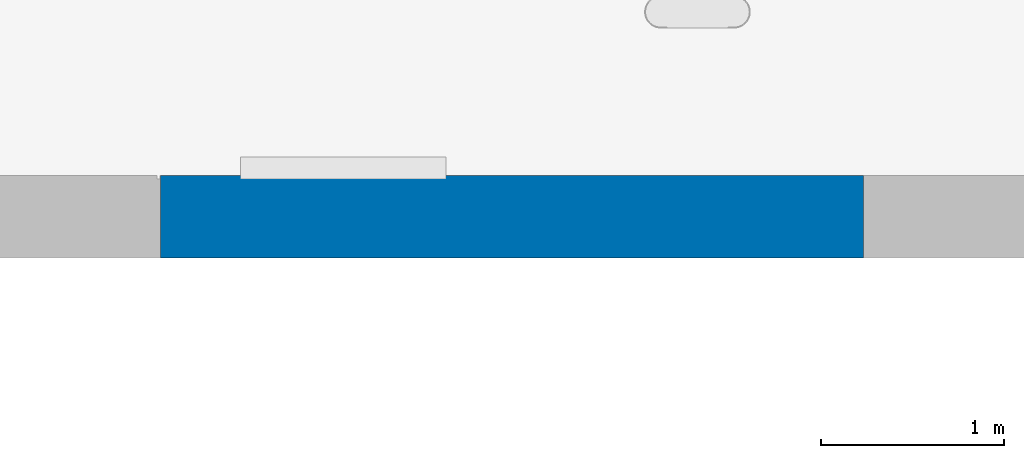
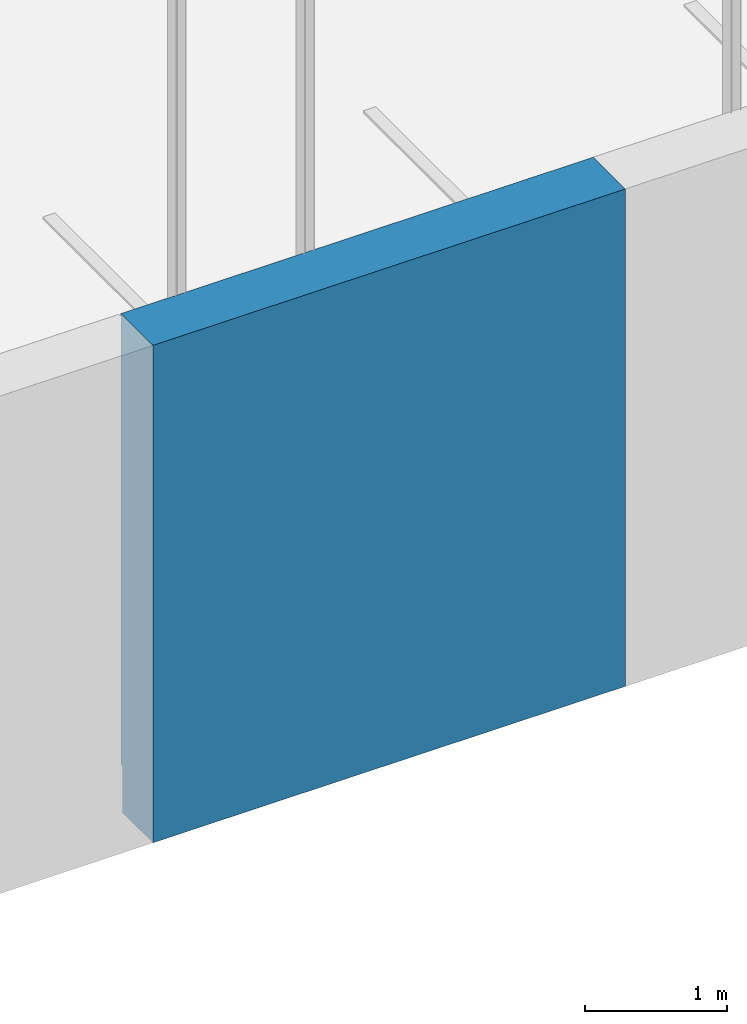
# One storey, part 29 of 77: 1 wall, 3 openings.
"""IFC2X3 building model written with IfcOpenShell, lengths in millimetres."""

from ifc_helpers import new_model, entity, si_unit, converted_unit, derived_unit, direction, frame, frame_2d, origin, place, context, subcontext, project, spatial, rectangle, extrude, faceted_brep, material, layer, layer_set, layer_usage, type_object, element, save


model = new_model("IFC2X3")

# Units and contexts
model_context = context("Model", 3, precision=0.01, world=origin(), true_north=direction((6.12303176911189e-17, 1.0)))
body_context = subcontext(model_context, "Body", "Model", "MODEL_VIEW")
ifc_project = project(units=[si_unit("LENGTHUNIT", "METRE", prefix="MILLI"), si_unit("AREAUNIT", "SQUARE_METRE"), si_unit("VOLUMEUNIT", "CUBIC_METRE"), converted_unit("PLANEANGLEUNIT", "DEGREE", entity("IfcRatioMeasure", 0.0174532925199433), si_unit("PLANEANGLEUNIT", "RADIAN"), dimensions=[0, 0, 0, 0, 0, 0, 0]), si_unit("MASSUNIT", "GRAM", prefix="KILO"), derived_unit("MASSDENSITYUNIT", [(si_unit("MASSUNIT", "GRAM", prefix="KILO"), 1), (si_unit("LENGTHUNIT", "METRE"), -3)]), si_unit("TIMEUNIT", "SECOND"), si_unit("FREQUENCYUNIT", "HERTZ"), si_unit("THERMODYNAMICTEMPERATUREUNIT", "DEGREE_CELSIUS"), derived_unit("THERMALTRANSMITTANCEUNIT", [(si_unit("MASSUNIT", "GRAM", prefix="KILO"), 1), (si_unit("THERMODYNAMICTEMPERATUREUNIT", "KELVIN"), -1), (si_unit("TIMEUNIT", "SECOND"), -3)]), derived_unit("VOLUMETRICFLOWRATEUNIT", [(si_unit("LENGTHUNIT", "METRE"), 3), (si_unit("TIMEUNIT", "SECOND"), -1)]), si_unit("ELECTRICCURRENTUNIT", "AMPERE"), si_unit("ELECTRICVOLTAGEUNIT", "VOLT"), si_unit("POWERUNIT", "WATT"), si_unit("FORCEUNIT", "NEWTON", prefix="KILO"), si_unit("ILLUMINANCEUNIT", "LUX"), si_unit("LUMINOUSFLUXUNIT", "LUMEN"), si_unit("LUMINOUSINTENSITYUNIT", "CANDELA"), derived_unit("USERDEFINED", [(si_unit("MASSUNIT", "GRAM", prefix="KILO"), -1), (si_unit("LENGTHUNIT", "METRE"), -2), (si_unit("TIMEUNIT", "SECOND"), 3), (si_unit("LUMINOUSFLUXUNIT", "LUMEN"), 1)]), derived_unit("LINEARVELOCITYUNIT", [(si_unit("LENGTHUNIT", "METRE"), 1), (si_unit("TIMEUNIT", "SECOND"), -1)]), si_unit("PRESSUREUNIT", "PASCAL"), derived_unit("USERDEFINED", [(si_unit("LENGTHUNIT", "METRE"), -2), (si_unit("MASSUNIT", "GRAM", prefix="KILO"), 1), (si_unit("TIMEUNIT", "SECOND"), -2)])], contexts=[model_context])

# Site, building, storey
site_placement = place(None, origin())
site = spatial("IfcSite", under=ifc_project, at=site_placement, Name="Default", CompositionType="ELEMENT")
building_placement = place(site_placement, origin())
building = spatial("IfcBuilding", under=site, at=building_placement, CompositionType="ELEMENT")
storey_placement = place(building_placement, origin())
storey = spatial("IfcBuildingStorey", under=building, at=storey_placement, Name="1. KORRUS", CompositionType="ELEMENT", Elevation=0.0)

# Wall, openings
ifc_material_1 = material(Name="RECKLI 1 173 THUR by Polantis 2016-toon2")
ifc_layer_1 = layer(ifc_material_1, 100.0)
ifc_material_2 = material(Name="Soojusisolatsioon EPS")
ifc_layer_2 = layer(ifc_material_2, 200.0)
ifc_material_3 = material(Name="r/b")
ifc_layer_3 = layer(ifc_material_3, 150.0)
ifc_layer_set = layer_set([ifc_layer_1, ifc_layer_2, ifc_layer_3], Name="Basic Wall:VS-1_toon-c")
ifc_layer_usage = layer_usage(ifc_layer_set, "AXIS2", "NEGATIVE", 225.0)
wall_type = type_object("IfcWallType", Name="Basic Wall:VS-1_toon-c", PredefinedType="STANDARD", material=ifc_layer_set)
wall_placement = place(storey_placement, frame((18253.3528910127, 21725.0517807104, -400.0)))
wall = element("IfcWallStandardCase", 1, at=wall_placement, inside=storey, type_object=wall_type, material=ifc_layer_usage, Name="Basic Wall:VS-1_toon-c", ObjectType="Basic Wall:VS-1_toon-c", context=body_context, shape_type="SweptSolid", body=[
    extrude(rectangle(XDim=3831.64710898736, YDim=450.000000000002, at=frame_2d((1915.82355449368, -3.41060513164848e-13), x_axis=(-1.0, 0.0))), origin(), (0.0, 0.0, 1.0), 4265.0),
])
opening_1_placement = place(wall_placement, origin())
element("IfcOpeningElement", 2, at=opening_1_placement, cuts=wall, Name="Basic Wall:VS-1_toon-c", ObjectType="Opening", context=body_context, shape_type="Brep", body=[
    faceted_brep([(-18683.3528910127, 6304.94821928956, 400.0), (-18683.3528910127, 6304.94821928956, 0.0), (-18703.3528910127, 6324.94821928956, 0.0), (-18703.3528910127, 6324.94821928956, 400.0), (-18683.3528910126, 1564.94821928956, 400.0), (-18703.3528910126, 1564.94821928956, 400.0), (-18703.3528910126, 1564.94821928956, 0.0), (-18683.3528910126, 1564.94821928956, 0.0)], [[[0, 1, 2, 3]], [[4, 5, 6, 7]], [[1, 0, 4, 7]], [[2, 1, 7, 6]], [[3, 2, 6, 5]], [[0, 3, 5, 4]]]),
    faceted_brep([(-18683.3528910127, 6304.94821928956, 400.0), (-18703.3528910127, 6324.94821928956, 400.0), (-18703.3528910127, 6324.94821928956, 0.0), (-18683.3528910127, 6304.94821928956, 0.0), (-14343.3528910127, 6304.94821928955, 400.0), (-14343.3528910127, 6304.94821928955, 0.0), (-14343.3528910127, 6324.94821928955, 0.0), (-14343.3528910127, 6324.94821928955, 400.0)], [[[0, 1, 2, 3]], [[4, 5, 6, 7]], [[1, 0, 4, 7]], [[2, 1, 7, 6]], [[3, 2, 6, 5]], [[0, 3, 5, 4]]]),
    faceted_brep([(-8623.35289101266, 6304.94821928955, 400.0), (-8603.35289101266, 6324.94821928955, 400.0), (-8603.35289101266, 6324.94821928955, 0.0), (-8623.35289101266, 6304.94821928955, 0.0), (-8623.35289101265, 205.0, 400.0), (-8623.35289101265, 205.0, 0.0), (-8603.35289101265, 225.0, 0.0), (-8603.35289101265, 225.0, 400.0)], [[[0, 1, 2, 3]], [[4, 5, 6, 7]], [[1, 0, 4, 7]], [[2, 1, 7, 6]], [[3, 2, 6, 5]], [[0, 3, 5, 4]]]),
    faceted_brep([(-3903.35289101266, 205.0, 400.0), (-3903.35289101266, 225.0, 400.0), (-3903.35289101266, 225.0, 0.0), (-3903.35289101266, 205.0, 0.0), (-3373.35289101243, 205.0, 400.0), (-3373.35289101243, 205.0, 0.0), (-3373.35289101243, 225.0, 0.0), (-3373.35289101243, 225.0, 400.0)], [[[0, 1, 2, 3]], [[4, 5, 6, 7]], [[1, 0, 4, 7]], [[2, 1, 7, 6]], [[3, 2, 6, 5]], [[0, 3, 5, 4]]]),
    faceted_brep([(21676.6471089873, 205.0, 400.0), (21696.6471089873, 225.0, 400.0), (21696.6471089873, 225.0, 0.0), (21676.6471089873, 205.0, 0.0), (21676.6471089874, -5935.05178071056, 400.0), (21676.6471089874, -5935.05178071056, 0.0), (21696.6471089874, -5935.05178071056, 0.0), (21696.6471089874, -5935.05178071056, 400.0)], [[[0, 1, 2, 3]], [[4, 5, 6, 7]], [[1, 0, 4, 7]], [[2, 1, 7, 6]], [[3, 2, 6, 5]], [[0, 3, 5, 4]]]),
    faceted_brep([(21676.6471089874, -22155.0517807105, 400.0), (21696.6471089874, -22175.0517807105, 400.0), (21696.6471089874, -22175.0517807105, 0.0), (21676.6471089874, -22155.0517807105, 0.0), (16546.6471089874, -22155.0517807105, 400.0), (16546.6471089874, -22155.0517807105, 0.0), (16546.6471089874, -22175.0517807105, 0.0), (16546.6471089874, -22175.0517807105, 400.0)], [[[0, 1, 2, 3]], [[4, 5, 6, 7]], [[1, 0, 4, 7]], [[2, 1, 7, 6]], [[3, 2, 6, 5]], [[0, 3, 5, 4]]]),
    faceted_brep([(-6853.35289101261, -22155.0517807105, 400.0), (-6853.35289101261, -22175.0517807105, 400.0), (-6853.35289101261, -22175.0517807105, 0.0), (-6853.35289101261, -22155.0517807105, 0.0), (-10638.3528910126, -22155.0517807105, 400.0), (-10638.3528910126, -22155.0517807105, 0.0), (-10638.3528910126, -22175.0517807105, 0.0), (-10638.3528910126, -22175.0517807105, 400.0)], [[[0, 1, 2, 3]], [[4, 5, 6, 7]], [[1, 0, 4, 7]], [[2, 1, 7, 6]], [[3, 2, 6, 5]], [[0, 3, 5, 4]]]),
    faceted_brep([(21676.6471089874, -8965.05178071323, 400.0), (21696.6471089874, -8965.05178071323, 400.0), (21696.6471089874, -8965.05178071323, 0.0), (21676.6471089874, -8965.05178071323, 0.0), (21676.6471089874, -13081.7217807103, 400.0), (21676.6471089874, -13081.7217807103, 0.0), (21696.6471089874, -13081.7217807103, 0.0), (21696.6471089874, -13081.7217807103, 400.0)], [[[0, 1, 2, 3]], [[4, 5, 6, 7]], [[1, 0, 4, 7]], [[2, 1, 7, 6]], [[3, 2, 6, 5]], [[0, 3, 5, 4]]]),
    faceted_brep([(12946.6471089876, -22155.0517807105, 400.0), (12946.6471089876, -22175.0517807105, 400.0), (12946.6471089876, -22175.0517807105, 0.0), (12946.6471089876, -22155.0517807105, 0.0), (10546.6471089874, -22155.0517807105, 400.0), (10546.6471089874, -22155.0517807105, 0.0), (10546.6471089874, -22175.0517807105, 0.0), (10546.6471089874, -22175.0517807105, 400.0)], [[[0, 1, 2, 3]], [[4, 5, 6, 7]], [[1, 0, 4, 7]], [[2, 1, 7, 6]], [[3, 2, 6, 5]], [[0, 3, 5, 4]]]),
    faceted_brep([(-14463.3220672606, -22155.0517807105, 400.0), (-14463.3220672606, -22175.0517807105, 400.0), (-14463.3220672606, -22175.0517807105, 0.0), (-14463.3220672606, -22155.0517807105, 0.0), (-16948.3220672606, -22155.0517807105, 400.0), (-16948.3220672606, -22155.0517807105, 0.0), (-16948.3220672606, -22175.0517807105, 0.0), (-16948.3220672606, -22175.0517807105, 400.0)], [[[0, 1, 2, 3]], [[4, 5, 6, 7]], [[1, 0, 4, 7]], [[2, 1, 7, 6]], [[3, 2, 6, 5]], [[0, 3, 5, 4]]]),
    faceted_brep([(-2253.3528910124, -22155.0517807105, 400.0), (-2253.3528910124, -22175.0517807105, 400.0), (-2253.3528910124, -22175.0517807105, 0.0), (-2253.3528910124, -22155.0517807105, 0.0), (-3253.35289101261, -22155.0517807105, 400.0), (-3253.35289101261, -22155.0517807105, 0.0), (-3253.35289101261, -22175.0517807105, 0.0), (-3253.35289101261, -22175.0517807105, 400.0)], [[[0, 1, 2, 3]], [[4, 5, 6, 7]], [[1, 0, 4, 7]], [[2, 1, 7, 6]], [[3, 2, 6, 5]], [[0, 3, 5, 4]]]),
    faceted_brep([(2346.67877197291, -22155.0517807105, 400.0), (2346.67877197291, -22175.0517807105, 400.0), (2346.67877197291, -22175.0517807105, 0.0), (2346.67877197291, -22155.0517807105, 0.0), (1346.64710898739, -22155.0517807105, 400.0), (1346.64710898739, -22155.0517807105, 0.0), (1346.64710898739, -22175.0517807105, 0.0), (1346.64710898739, -22175.0517807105, 400.0)], [[[0, 1, 2, 3]], [[4, 5, 6, 7]], [[1, 0, 4, 7]], [[2, 1, 7, 6]], [[3, 2, 6, 5]], [[0, 3, 5, 4]]]),
    faceted_brep([(6946.67877197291, -22155.0517807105, 400.0), (6946.67877197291, -22175.0517807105, 400.0), (6946.67877197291, -22175.0517807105, 0.0), (6946.67877197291, -22155.0517807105, 0.0), (5946.64710898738, -22155.0517807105, 400.0), (5946.64710898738, -22155.0517807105, 0.0), (5946.64710898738, -22175.0517807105, 0.0), (5946.64710898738, -22175.0517807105, 400.0)], [[[0, 1, 2, 3]], [[4, 5, 6, 7]], [[1, 0, 4, 7]], [[2, 1, 7, 6]], [[3, 2, 6, 5]], [[0, 3, 5, 4]]]),
    faceted_brep([(21676.6471089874, -17310.0517807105, 400.0), (21696.6471089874, -17310.0517807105, 400.0), (21696.6471089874, -17310.0517807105, 0.0), (21676.6471089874, -17310.0517807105, 0.0), (21676.6471089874, -22155.0517807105, 400.0), (21676.6471089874, -22155.0517807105, 0.0), (21696.6471089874, -22175.0517807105, 0.0), (21696.6471089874, -22175.0517807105, 400.0)], [[[0, 1, 2, 3]], [[4, 5, 6, 7]], [[1, 0, 4, 7]], [[2, 1, 7, 6]], [[3, 2, 6, 5]], [[0, 3, 5, 4]]]),
    faceted_brep([(21676.6471089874, -13081.7217807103, 400.0), (21696.6471089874, -13081.7217807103, 400.0), (21696.6471089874, -13081.7217807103, 0.0), (21676.6471089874, -13081.7217807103, 0.0), (21676.6471089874, -17310.0517807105, 400.0), (21676.6471089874, -17310.0517807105, 0.0), (21696.6471089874, -17310.0517807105, 0.0), (21696.6471089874, -17310.0517807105, 400.0)], [[[0, 1, 2, 3]], [[4, 5, 6, 7]], [[1, 0, 4, 7]], [[2, 1, 7, 6]], [[3, 2, 6, 5]], [[0, 3, 5, 4]]]),
    faceted_brep([(21676.6471089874, -5935.05178071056, 400.0), (21696.6471089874, -5935.05178071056, 400.0), (21696.6471089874, -5935.05178071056, 0.0), (21676.6471089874, -5935.05178071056, 0.0), (21676.6471089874, -8965.05178071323, 400.0), (21676.6471089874, -8965.05178071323, 0.0), (21696.6471089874, -8965.05178071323, 0.0), (21696.6471089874, -8965.05178071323, 400.0)], [[[0, 1, 2, 3]], [[4, 5, 6, 7]], [[1, 0, 4, 7]], [[2, 1, 7, 6]], [[3, 2, 6, 5]], [[0, 3, 5, 4]]]),
    faceted_brep([(15716.7506792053, 205.0, 400.0), (15716.7506792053, 225.0, 400.0), (15716.7506792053, 225.0, 0.0), (15716.7506792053, 205.0, 0.0), (21676.6471089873, 205.0, 400.0), (21676.6471089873, 205.0, 0.0), (21696.6471089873, 225.0, 0.0), (21696.6471089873, 225.0, 400.0)], [[[0, 1, 2, 3]], [[4, 5, 6, 7]], [[1, 0, 4, 7]], [[2, 1, 7, 6]], [[3, 2, 6, 5]], [[0, 3, 5, 4]]]),
    faceted_brep([(10409.8632577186, 205.0, 400.0), (10409.8632577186, 225.0, 400.0), (10409.8632577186, 225.0, 0.0), (10409.8632577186, 205.0, 0.0), (15716.7506792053, 205.0, 400.0), (15716.7506792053, 205.0, 0.0), (15716.7506792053, 225.0, 0.0), (15716.7506792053, 225.0, 400.0)], [[[0, 1, 2, 3]], [[4, 5, 6, 7]], [[1, 0, 4, 7]], [[2, 1, 7, 6]], [[3, 2, 6, 5]], [[0, 3, 5, 4]]]),
    faceted_brep([(-10638.3528910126, -22155.0517807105, 400.0), (-10638.3528910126, -22175.0517807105, 400.0), (-10638.3528910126, -22175.0517807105, 0.0), (-10638.3528910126, -22155.0517807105, 0.0), (-14463.3220672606, -22155.0517807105, 400.0), (-14463.3220672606, -22155.0517807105, 0.0), (-14463.3220672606, -22175.0517807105, 0.0), (-14463.3220672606, -22175.0517807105, 400.0)], [[[0, 1, 2, 3]], [[4, 5, 6, 7]], [[1, 0, 4, 7]], [[2, 1, 7, 6]], [[3, 2, 6, 5]], [[0, 3, 5, 4]]]),
    faceted_brep([(3831.64710898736, 205.0, 400.0), (3831.64710898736, 225.0, 400.0), (3831.64710898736, 225.0, 0.0), (3831.64710898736, 205.0, 0.0), (10409.8632577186, 205.0, 400.0), (10409.8632577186, 205.0, 0.0), (10409.8632577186, 225.0, 0.0), (10409.8632577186, 225.0, 400.0)], [[[0, 1, 2, 3]], [[4, 5, 6, 7]], [[1, 0, 4, 7]], [[2, 1, 7, 6]], [[3, 2, 6, 5]], [[0, 3, 5, 4]]]),
    faceted_brep([(0.0, 205.0, 400.0), (0.0, 225.0, 400.0), (0.0, 225.0, 0.0), (0.0, 205.0, 0.0), (3831.64710898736, 205.0, 400.0), (3831.64710898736, 205.0, 0.0), (3831.64710898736, 225.0, 0.0), (3831.64710898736, 225.0, 400.0)], [[[0, 1, 2, 3]], [[4, 5, 6, 7]], [[1, 0, 4, 7]], [[2, 1, 7, 6]], [[3, 2, 6, 5]], [[0, 3, 5, 4]]]),
    faceted_brep([(-3373.35289101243, 205.0, 400.0), (-3373.35289101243, 225.0, 400.0), (-3373.35289101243, 225.0, 0.0), (-3373.35289101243, 205.0, 0.0), (0.0, 205.0, 400.0), (0.0, 205.0, 0.0), (0.0, 225.0, 0.0), (0.0, 225.0, 400.0)], [[[0, 1, 2, 3]], [[4, 5, 6, 7]], [[1, 0, 4, 7]], [[2, 1, 7, 6]], [[3, 2, 6, 5]], [[0, 3, 5, 4]]]),
    faceted_brep([(-14343.3528910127, 6304.94821928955, 400.0), (-14343.3528910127, 6324.94821928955, 400.0), (-14343.3528910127, 6324.94821928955, 0.0), (-14343.3528910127, 6304.94821928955, 0.0), (-8623.35289101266, 6304.94821928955, 400.0), (-8623.35289101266, 6304.94821928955, 0.0), (-8603.35289101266, 6324.94821928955, 0.0), (-8603.35289101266, 6324.94821928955, 400.0)], [[[0, 1, 2, 3]], [[4, 5, 6, 7]], [[1, 0, 4, 7]], [[2, 1, 7, 6]], [[3, 2, 6, 5]], [[0, 3, 5, 4]]]),
    faceted_brep([(-18683.3528910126, 1564.94821928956, 400.0), (-18683.3528910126, 1564.94821928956, 0.0), (-18703.3528910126, 1564.94821928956, 0.0), (-18703.3528910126, 1564.94821928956, 400.0), (-18683.3528910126, -3985.05108347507, 400.0), (-18703.3528910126, -3985.05108347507, 400.0), (-18703.3528910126, -3985.05108347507, 0.0), (-18683.3528910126, -3985.05108347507, 0.0)], [[[0, 1, 2, 3]], [[4, 5, 6, 7]], [[1, 0, 4, 7]], [[2, 1, 7, 6]], [[3, 2, 6, 5]], [[0, 3, 5, 4]]]),
    faceted_brep([(-18683.3528910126, -3985.05108347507, 400.0), (-18683.3528910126, -3985.05108347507, 0.0), (-18703.3528910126, -3985.05108347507, 0.0), (-18703.3528910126, -3985.05108347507, 400.0), (-18683.3528910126, -8925.05178071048, 400.0), (-18703.3528910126, -8925.05178071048, 400.0), (-18703.3528910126, -8925.05178071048, 0.0), (-18683.3528910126, -8925.05178071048, 0.0)], [[[0, 1, 2, 3]], [[4, 5, 6, 7]], [[1, 0, 4, 7]], [[2, 1, 7, 6]], [[3, 2, 6, 5]], [[0, 3, 5, 4]]]),
    faceted_brep([(-8623.35289101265, 205.0, 400.0), (-8603.35289101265, 225.0, 400.0), (-8603.35289101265, 225.0, 0.0), (-8623.35289101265, 205.0, 0.0), (-7503.35289101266, 205.0, 400.0), (-7503.35289101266, 205.0, 0.0), (-7503.35289101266, 225.0, 0.0), (-7503.35289101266, 225.0, 400.0)], [[[0, 1, 2, 3]], [[4, 5, 6, 7]], [[1, 0, 4, 7]], [[2, 1, 7, 6]], [[3, 2, 6, 5]], [[0, 3, 5, 4]]]),
])
opening_2_placement = place(wall_placement, origin())
element("IfcOpeningElement", 3, at=opening_2_placement, cuts=wall, Name="Basic Wall:VS-1_toon-c", ObjectType="Recess", context=body_context, shape_type="SweptSolid", body=[
    extrude(rectangle(XDim=4265.0, YDim=16.0000000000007, at=frame_2d((0.0, -2.16626716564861e-12), x_axis=(1.0, 0.0))), frame((3869.72245025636, 205.0, 2132.5), z_axis=(0.0, 1.0, 0.0), x_axis=(0.0, 0.0, 1.0)), (0.0, 0.0, 1.0), 19.9999999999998),
    extrude(rectangle(XDim=4835.0, YDim=16.0000000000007, at=frame_2d((2.27373675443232e-13, -2.16626716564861e-12), x_axis=(1.0, 0.0))), frame((3869.72245025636, 205.0, 6682.5), z_axis=(0.0, 1.0, 0.0), x_axis=(0.0, 0.0, 1.0)), (0.0, 0.0, 1.0), 19.9999999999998),
])
opening_3_placement = place(wall_placement, frame((-18703.3528910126, -22175.0517807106, 4269.0)))
element("IfcOpeningElement", 4, at=opening_3_placement, cuts=wall, Name="Basic Wall:VS-1_toon-c", ObjectType="Opening", context=body_context, shape_type="Brep", body=[
    faceted_brep([(11850.0, 20.0, 16.0), (11850.0, 0.0, 16.0), (11850.0, 0.0, 0.0), (11850.0, 20.0, 0.0), (4260.0, 20.0, 16.0), (4260.0, 20.0, 0.0), (4260.0, 0.0, 0.0), (4260.0, 0.0, 16.0)], [[[0, 1, 2, 3]], [[4, 5, 6, 7]], [[1, 0, 4, 7]], [[2, 1, 7, 6]], [[3, 2, 6, 5]], [[0, 3, 5, 4]]]),
    faceted_brep([(20.0, 28480.0, 16.0), (20.0, 28480.0, 0.0), (0.0, 28500.0, 0.0), (0.0, 28500.0, 16.0), (20.0, 23740.0, 16.0), (0.0, 23740.0, 16.0), (0.0, 23740.0, 0.0), (20.0, 23740.0, 0.0)], [[[0, 1, 2, 3]], [[4, 5, 6, 7]], [[1, 0, 4, 7]], [[2, 1, 7, 6]], [[3, 2, 6, 5]], [[0, 3, 5, 4]]]),
    faceted_brep([(10080.0, 22380.0517807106, 16.0), (10100.0, 22400.0517807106, 16.0), (10100.0, 22400.0517807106, 0.0), (10080.0, 22380.0517807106, 0.0), (15330.3475962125, 22380.0517807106, 16.0), (15330.3475962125, 22380.0517807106, 0.0), (15330.3475962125, 22400.0517807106, 0.0), (15330.3475962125, 22400.0517807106, 16.0)], [[[0, 1, 2, 3]], [[4, 5, 6, 7]], [[1, 0, 4, 7]], [[2, 1, 7, 6]], [[3, 2, 6, 5]], [[0, 3, 5, 4]]]),
    faceted_brep([(20.0, 28480.0, 16.0), (0.0, 28500.0, 16.0), (0.0, 28500.0, 0.0), (20.0, 28480.0, 0.0), (4360.0, 28480.0, 16.0), (4360.0, 28480.0, 0.0), (4360.0, 28500.0, 0.0), (4360.0, 28500.0, 16.0)], [[[0, 1, 2, 3]], [[4, 5, 6, 7]], [[1, 0, 4, 7]], [[2, 1, 7, 6]], [[3, 2, 6, 5]], [[0, 3, 5, 4]]]),
    faceted_brep([(40380.0, 20.0, 16.0), (40400.0, 0.0, 16.0), (40400.0, 0.0, 0.0), (40380.0, 20.0, 0.0), (35250.0, 20.0, 16.0), (35250.0, 20.0, 0.0), (35250.0, 0.0, 0.0), (35250.0, 0.0, 16.0)], [[[0, 1, 2, 3]], [[4, 5, 6, 7]], [[1, 0, 4, 7]], [[2, 1, 7, 6]], [[3, 2, 6, 5]], [[0, 3, 5, 4]]]),
    faceted_brep([(34420.1035702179, 22380.0517807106, 16.0), (34420.1035702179, 22400.0517807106, 16.0), (34420.1035702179, 22400.0517807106, 0.0), (34420.1035702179, 22380.0517807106, 0.0), (40380.0, 22380.0517807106, 16.0), (40380.0, 22380.0517807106, 0.0), (40400.0, 22400.0517807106, 0.0), (40400.0, 22400.0517807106, 16.0)], [[[0, 1, 2, 3]], [[4, 5, 6, 7]], [[1, 0, 4, 7]], [[2, 1, 7, 6]], [[3, 2, 6, 5]], [[0, 3, 5, 4]]]),
    faceted_brep([(29113.2161487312, 22380.0517807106, 16.0), (29113.2161487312, 22400.0517807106, 16.0), (29113.2161487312, 22400.0517807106, 0.0), (29113.2161487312, 22380.0517807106, 0.0), (34420.1035702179, 22380.0517807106, 16.0), (34420.1035702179, 22380.0517807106, 0.0), (34420.1035702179, 22400.0517807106, 0.0), (34420.1035702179, 22400.0517807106, 16.0)], [[[0, 1, 2, 3]], [[4, 5, 6, 7]], [[1, 0, 4, 7]], [[2, 1, 7, 6]], [[3, 2, 6, 5]], [[0, 3, 5, 4]]]),
    faceted_brep([(10080.0, 28480.0, 16.0), (10100.0, 28500.0, 16.0), (10100.0, 28500.0, 0.0), (10080.0, 28480.0, 0.0), (10080.0, 22380.0517807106, 16.0), (10080.0, 22380.0517807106, 0.0), (10100.0, 22400.0517807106, 0.0), (10100.0, 22400.0517807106, 16.0)], [[[0, 1, 2, 3]], [[4, 5, 6, 7]], [[1, 0, 4, 7]], [[2, 1, 7, 6]], [[3, 2, 6, 5]], [[0, 3, 5, 4]]]),
    faceted_brep([(4260.0, 20.0, 16.0), (4260.0, 0.0, 16.0), (4260.0, 0.0, 0.0), (4260.0, 20.0, 0.0), (0.0, 20.0, 16.0), (0.0, 20.0, 0.0), (0.0, 0.0, 0.0), (0.0, 0.0, 16.0)], [[[0, 1, 2, 3]], [[4, 5, 6, 7]], [[1, 0, 4, 7]], [[2, 1, 7, 6]], [[3, 2, 6, 5]], [[0, 3, 5, 4]]]),
    faceted_brep([(40380.0, 4865.0, 16.0), (40400.0, 4865.0, 16.0), (40400.0, 4865.0, 0.0), (40380.0, 4865.0, 0.0), (40380.0, 20.0, 16.0), (40380.0, 20.0, 0.0), (40400.0, 0.0, 0.0), (40400.0, 0.0, 16.0)], [[[0, 1, 2, 3]], [[4, 5, 6, 7]], [[1, 0, 4, 7]], [[2, 1, 7, 6]], [[3, 2, 6, 5]], [[0, 3, 5, 4]]]),
    faceted_brep([(40380.0, 9093.33000000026, 16.0), (40400.0, 9093.33000000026, 16.0), (40400.0, 9093.33000000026, 0.0), (40380.0, 9093.33000000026, 0.0), (40380.0, 4865.0, 16.0), (40380.0, 4865.0, 0.0), (40400.0, 4865.0, 0.0), (40400.0, 4865.0, 16.0)], [[[0, 1, 2, 3]], [[4, 5, 6, 7]], [[1, 0, 4, 7]], [[2, 1, 7, 6]], [[3, 2, 6, 5]], [[0, 3, 5, 4]]]),
    faceted_brep([(40380.0, 13210.0, 16.0), (40400.0, 13210.0, 16.0), (40400.0, 13210.0, 0.0), (40380.0, 13210.0, 0.0), (40380.0, 9093.33000000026, 16.0), (40380.0, 9093.33000000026, 0.0), (40400.0, 9093.33000000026, 0.0), (40400.0, 9093.33000000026, 16.0)], [[[0, 1, 2, 3]], [[4, 5, 6, 7]], [[1, 0, 4, 7]], [[2, 1, 7, 6]], [[3, 2, 6, 5]], [[0, 3, 5, 4]]]),
    faceted_brep([(40380.0, 16240.0, 16.0), (40400.0, 16240.0, 16.0), (40400.0, 16240.0, 0.0), (40380.0, 16240.0, 0.0), (40380.0, 13210.0, 16.0), (40380.0, 13210.0, 0.0), (40400.0, 13210.0, 0.0), (40400.0, 13210.0, 16.0)], [[[0, 1, 2, 3]], [[4, 5, 6, 7]], [[1, 0, 4, 7]], [[2, 1, 7, 6]], [[3, 2, 6, 5]], [[0, 3, 5, 4]]]),
    faceted_brep([(40380.0, 22380.0517807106, 16.0), (40400.0, 22400.0517807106, 16.0), (40400.0, 22400.0517807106, 0.0), (40380.0, 22380.0517807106, 0.0), (40380.0, 16240.0, 16.0), (40380.0, 16240.0, 0.0), (40400.0, 16240.0, 0.0), (40400.0, 16240.0, 16.0)], [[[0, 1, 2, 3]], [[4, 5, 6, 7]], [[1, 0, 4, 7]], [[2, 1, 7, 6]], [[3, 2, 6, 5]], [[0, 3, 5, 4]]]),
    faceted_brep([(22535.0, 22380.0517807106, 16.0), (22535.0, 22400.0517807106, 16.0), (22535.0, 22400.0517807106, 0.0), (22535.0, 22380.0517807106, 0.0), (29113.2161487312, 22380.0517807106, 16.0), (29113.2161487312, 22380.0517807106, 0.0), (29113.2161487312, 22400.0517807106, 0.0), (29113.2161487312, 22400.0517807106, 16.0)], [[[0, 1, 2, 3]], [[4, 5, 6, 7]], [[1, 0, 4, 7]], [[2, 1, 7, 6]], [[3, 2, 6, 5]], [[0, 3, 5, 4]]]),
    faceted_brep([(18703.3528910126, 22380.0517807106, 16.0), (18703.3528910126, 22400.0517807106, 16.0), (18703.3528910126, 22400.0517807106, 0.0), (18703.3528910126, 22380.0517807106, 0.0), (22535.0, 22380.0517807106, 16.0), (22535.0, 22380.0517807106, 0.0), (22535.0, 22400.0517807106, 0.0), (22535.0, 22400.0517807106, 16.0)], [[[0, 1, 2, 3]], [[4, 5, 6, 7]], [[1, 0, 4, 7]], [[2, 1, 7, 6]], [[3, 2, 6, 5]], [[0, 3, 5, 4]]]),
    faceted_brep([(15330.3475962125, 22380.0517807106, 16.0), (15330.3475962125, 22400.0517807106, 16.0), (15330.3475962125, 22400.0517807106, 0.0), (15330.3475962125, 22380.0517807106, 0.0), (18703.3528910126, 22380.0517807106, 16.0), (18703.3528910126, 22380.0517807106, 0.0), (18703.3528910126, 22400.0517807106, 0.0), (18703.3528910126, 22400.0517807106, 16.0)], [[[0, 1, 2, 3]], [[4, 5, 6, 7]], [[1, 0, 4, 7]], [[2, 1, 7, 6]], [[3, 2, 6, 5]], [[0, 3, 5, 4]]]),
    faceted_brep([(4360.0, 28480.0, 16.0), (4360.0, 28500.0, 16.0), (4360.0, 28500.0, 0.0), (4360.0, 28480.0, 0.0), (10080.0, 28480.0, 16.0), (10080.0, 28480.0, 0.0), (10100.0, 28500.0, 0.0), (10100.0, 28500.0, 16.0)], [[[0, 1, 2, 3]], [[4, 5, 6, 7]], [[1, 0, 4, 7]], [[2, 1, 7, 6]], [[3, 2, 6, 5]], [[0, 3, 5, 4]]]),
    faceted_brep([(20.0, 23740.0, 16.0), (20.0, 23740.0, 0.0), (0.0, 23740.0, 0.0), (0.0, 23740.0, 16.0), (20.0, 16890.0006972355, 16.0), (0.0, 16890.0006972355, 16.0), (0.0, 16890.0006972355, 0.0), (20.0, 16890.0006972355, 0.0)], [[[0, 1, 2, 3]], [[4, 5, 6, 7]], [[1, 0, 4, 7]], [[2, 1, 7, 6]], [[3, 2, 6, 5]], [[0, 3, 5, 4]]]),
    faceted_brep([(20.0, 16890.0006972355, 16.0), (20.0, 16890.0006972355, 0.0), (0.0, 16890.0006972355, 0.0), (0.0, 16890.0006972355, 16.0), (20.0, 13460.0, 16.0), (0.0, 13460.0, 16.0), (0.0, 13460.0, 0.0), (20.0, 13460.0, 0.0)], [[[0, 1, 2, 3]], [[4, 5, 6, 7]], [[1, 0, 4, 7]], [[2, 1, 7, 6]], [[3, 2, 6, 5]], [[0, 3, 5, 4]]]),
])

save(model, "model.ifc")
